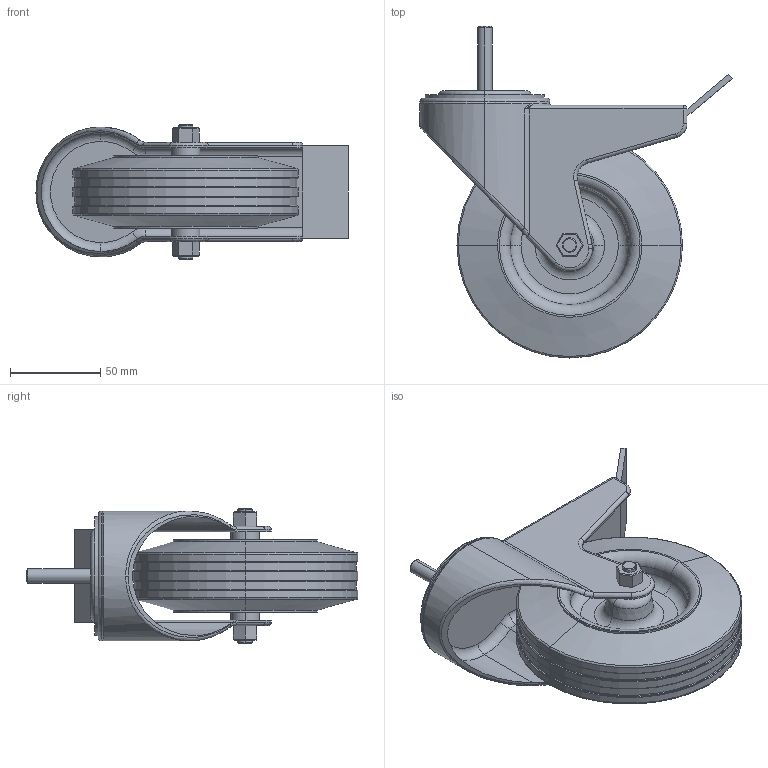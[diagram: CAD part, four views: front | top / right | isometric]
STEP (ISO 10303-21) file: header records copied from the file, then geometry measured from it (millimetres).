
FILE_DESCRIPTION (( 'STEP AP214' ), '1' );
FILE_NAME ('A49 125 M8.step', '2017-04-05T07:53:16', ( '' ), ( '' ), 'SwSTEP 2.0', 'SolidWorks 2015', '' );
FILE_SCHEMA (( 'AUTOMOTIVE_DESIGN' ));
Length unit declared in the file: millimetre
Products named in the file (1): A49 125 M8
Bounding box: 172.97 x 183.97 x 75 mm (x, y, z)
Volume: 457658.3 mm3; surface area: 92271.9 mm2
Topology: 1 solids, 1 shells, 209 faces, 458 edges, 266 vertices
Faces by surface type: cylinder 63, plane 62, torus 60, cone 14, bspline 8, sphere 2
Entity records: 6368 total; most frequent: CARTESIAN_POINT 1237, DIRECTION 1085, ORIENTED_EDGE 908, EDGE_CURVE 454, AXIS2_PLACEMENT_3D 454, VERTEX_POINT 266, CIRCLE 252, EDGE_LOOP 230
